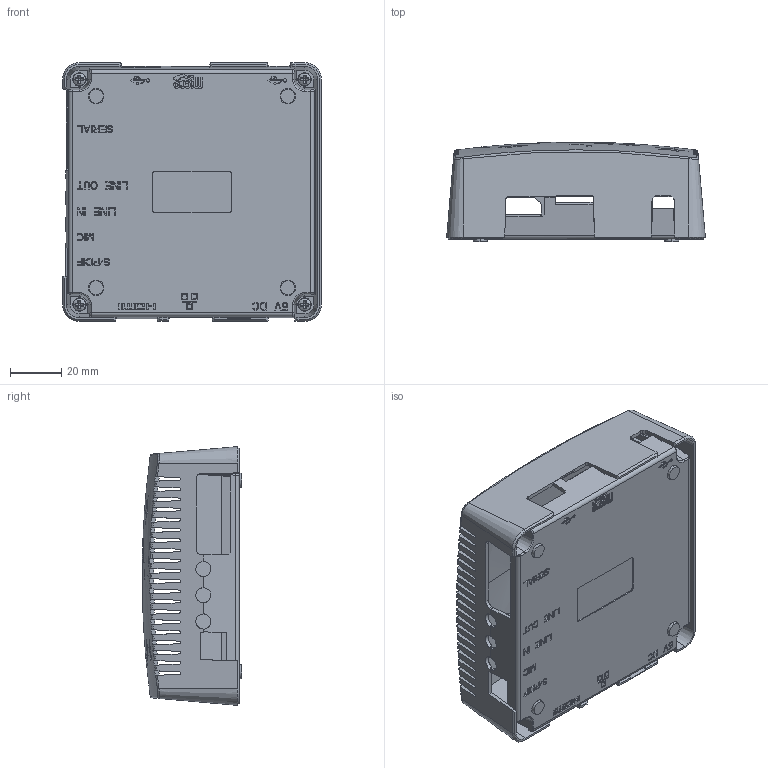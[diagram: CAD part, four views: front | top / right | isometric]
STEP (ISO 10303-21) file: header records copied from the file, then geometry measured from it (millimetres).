
FILE_DESCRIPTION((''),'2;1');
FILE_NAME('WANDBOARD_ENCLOSURE_ASM','2013-01-28T',('314'),(''),'','','');
FILE_SCHEMA(('CONFIG_CONTROL_DESIGN'));
Products named in the file (11): WB_ENCLOSURE_TOP_28; WB_ENCLOSURE_BOTTOM_40; MANIFOLD_SOLID_BREP_497701; MANIFOLD_SOLID_BREP_497790; MANIFOLD_SOLID_BREP_497879; MANIFOLD_SOLID_BREP_497968; RUBBER_FEET_4_ASM; WB_ENCLOSURE_ASM_10_ASM; PT_FASTENER__3; WANDBOARD_ASM_152_ASM; WANDBOARD_ENCLOSURE_ASM
Assembly tree (13 placements, depth 5):
  WANDBOARD_ENCLOSURE_ASM
    WANDBOARD_ASM_152_ASM
      WB_ENCLOSURE_ASM_10_ASM
        WB_ENCLOSURE_TOP_28
        WB_ENCLOSURE_BOTTOM_40
        RUBBER_FEET_4_ASM
          MANIFOLD_SOLID_BREP_497701
          MANIFOLD_SOLID_BREP_497790
          MANIFOLD_SOLID_BREP_497879
          MANIFOLD_SOLID_BREP_497968
      PT_FASTENER__3  x4
Bounding box: 101.26 x 39 x 101.26 mm (x, y, z)
Volume: 44868.2 mm3; surface area: 67084.8 mm2
Topology: 10 solids, 10 shells, 2086 faces, 6266 edges, 4185 vertices
Faces by surface type: plane 1400, extrusion 247, cylinder 179, torus 108, sphere 64, cone 48, bspline 40
Entity records: 72572 total; most frequent: CARTESIAN_POINT 21618, ORIENTED_EDGE 11378, DIRECTION 9344, EDGE_CURVE 5689, VECTOR 4040, VERTEX_POINT 3801, LINE 3793, AXIS2_PLACEMENT_3D 2652
